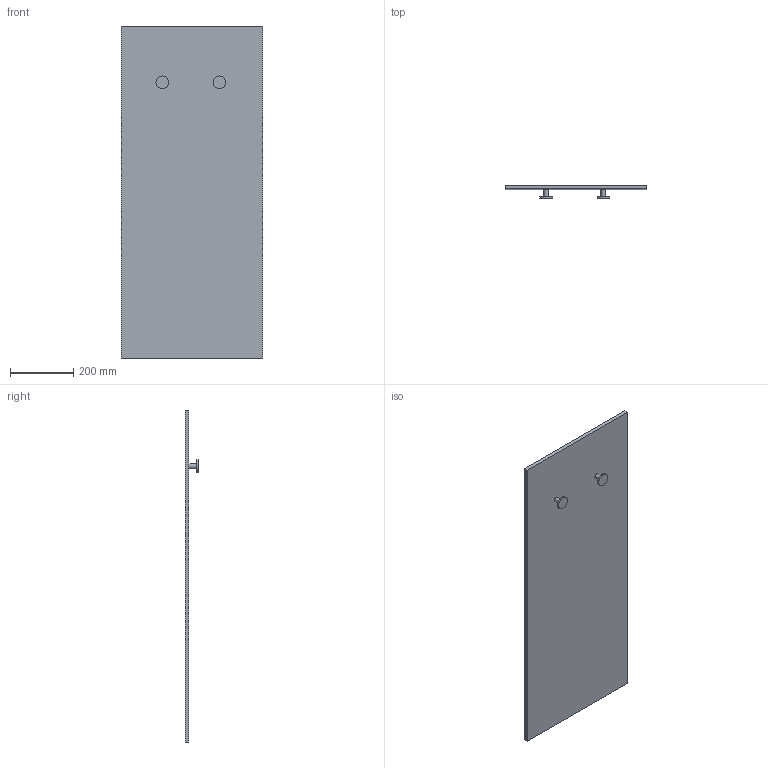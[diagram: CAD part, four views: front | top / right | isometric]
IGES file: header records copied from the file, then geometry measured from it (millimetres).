
Start section: Data from Parasolid IGES Translator 22.0.50, Copyright(c) 2006 Siemens P LM Software. All Rights Reserved.
Global section: file name: noorth_ZENO_H4_D3,2_W4_4363.igs; native system: By Siemens PLM Incorporated; preprocessor: XPlus GENERIC/IGES 22.0.50; author: Noname; organization: Noname; date: 20251123.103528; units: metre
Bounding box: 447 x 41 x 1047 mm (x, y, z)
Volume: 5169501.1 mm3; surface area: 978232.2 mm2
Topology: 5 solids, 5 shells, 18 faces, 24 edges, 16 vertices
Faces by surface type: plane 14, cylinder 4
Full cylindrical faces by diameter (mm): 15 x2, 40 x2
